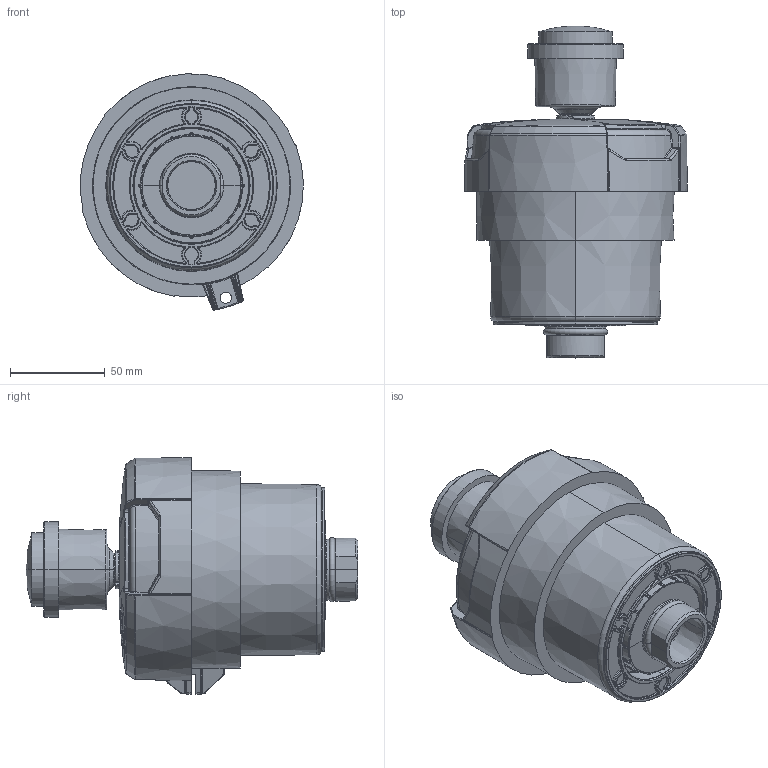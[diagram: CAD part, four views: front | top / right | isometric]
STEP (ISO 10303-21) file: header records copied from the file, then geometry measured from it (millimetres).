
FILE_DESCRIPTION((''),'2;1');
FILE_NAME('1000417942','2023-07-17T',('v.pichlmaier'),(''),'PRO/ENGINEER BY PARAMETRIC TECHNOLOGY CORPORATION, 2015110','PRO/ENGINEER BY PARAMETRIC TECHNOLOGY CORPORATION, 2015110','');
FILE_SCHEMA(('AUTOMOTIVE_DESIGN { 1 0 10303 214 1 1 1 1 }'));
Products named in the file (1): 1000417942
Bounding box: 117.86 x 175.58 x 125.01 mm (x, y, z)
Volume: 951053.3 mm3; surface area: 74508.6 mm2
Topology: 1 solids, 3 shells, 1858 faces, 4385 edges, 2554 vertices
Faces by surface type: bspline 872, torus 274, plane 252, cylinder 213, cone 179, sphere 68
Entity records: 110533 total; most frequent: CARTESIAN_POINT 60497, ORIENTED_EDGE 8762, DIRECTION 6228, PRESENTATION_STYLE_ASSIGNMENT 4382, STYLED_ITEM 4382, CURVE_STYLE 4381, EDGE_CURVE 4381, AXIS2_PLACEMENT_3D 2714
